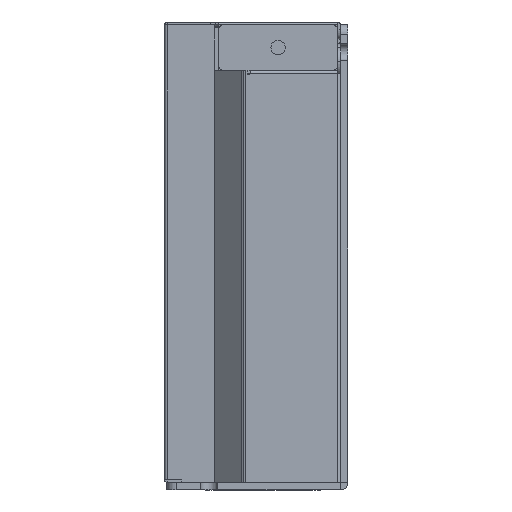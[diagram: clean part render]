
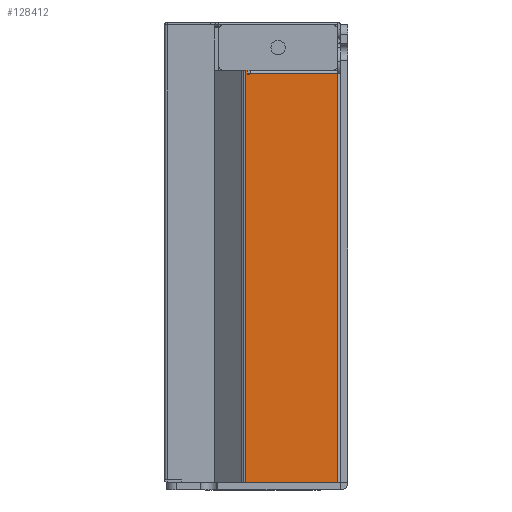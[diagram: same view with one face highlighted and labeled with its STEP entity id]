
A CAD part, left-side view. The second image highlights one B-rep face of the part: STEP entity #128412.
In plain terms, the highlighted planar face has unit normal (-1, 0, 0).
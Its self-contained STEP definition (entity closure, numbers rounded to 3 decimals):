
#60287=DIRECTION('',(0.,-1.,0.));
#60288=VECTOR('',#60287,85.5);
#60289=CARTESIAN_POINT('',(-87.45,47.65,-16.849));
#60290=LINE('',#60289,#60288);
#60309=DIRECTION('',(0.,0.,1.));
#60310=VECTOR('',#60309,19.051);
#60311=CARTESIAN_POINT('',(-87.45,47.65,-35.9));
#60312=LINE('',#60311,#60310);
#60316=DIRECTION('',(0.,0.,-1.));
#60317=VECTOR('',#60316,0.3);
#60318=CARTESIAN_POINT('',(-87.45,-37.85,-16.849));
#60319=LINE('',#60318,#60317);
#60323=DIRECTION('',(0.,1.,0.));
#60324=VECTOR('',#60323,0.6);
#60325=CARTESIAN_POINT('',(-87.45,-37.85,-17.149));
#60326=LINE('',#60325,#60324);
#60330=CARTESIAN_POINT('',(-87.45,-37.25,-17.449));
#60331=DIRECTION('',(-1.,0.,0.));
#60332=DIRECTION('',(0.,0.,1.));
#60333=AXIS2_PLACEMENT_3D('',#60330,#60331,#60332);
#60346=DIRECTION('',(0.,0.,-1.));
#60347=VECTOR('',#60346,18.151);
#60348=CARTESIAN_POINT('',(-87.45,-37.25,-17.749));
#60349=LINE('',#60348,#60347);
#60744=DIRECTION('',(0.,-1.,0.));
#60745=VECTOR('',#60744,84.9);
#60746=CARTESIAN_POINT('',(-87.45,47.65,-35.9));
#60747=LINE('',#60746,#60745);
#109420=CARTESIAN_POINT('',(-87.45,47.65,-35.9));
#109421=CARTESIAN_POINT('',(-87.45,47.65,-16.849));
#109422=VERTEX_POINT('',#109420);
#109423=VERTEX_POINT('',#109421);
#109442=CARTESIAN_POINT('',(-87.45,-37.85,-16.849));
#109443=VERTEX_POINT('',#109442);
#109446=CARTESIAN_POINT('',(-87.45,-37.85,-17.149));
#109447=CARTESIAN_POINT('',(-87.45,-37.25,-17.149));
#109448=VERTEX_POINT('',#109446);
#109449=VERTEX_POINT('',#109447);
#109450=CARTESIAN_POINT('',(-87.45,-37.25,-17.749));
#109451=VERTEX_POINT('',#109450);
#109464=CARTESIAN_POINT('',(-87.45,-37.25,-35.9));
#109465=VERTEX_POINT('',#109464);
#128393=CARTESIAN_POINT('',(-87.45,25.102,-16.6));
#128394=DIRECTION('',(1.,0.,0.));
#128395=DIRECTION('',(0.,-1.,0.));
#128396=AXIS2_PLACEMENT_3D('',#128393,#128394,#128395);
#128397=PLANE('',#128396);
#128399=ORIENTED_EDGE('',*,*,#128398,.T.);
#128401=ORIENTED_EDGE('',*,*,#128400,.F.);
#128403=ORIENTED_EDGE('',*,*,#128402,.T.);
#128404=ORIENTED_EDGE('',*,*,#128386,.T.);
#128405=ORIENTED_EDGE('',*,*,#128290,.T.);
#128407=ORIENTED_EDGE('',*,*,#128406,.T.);
#128409=ORIENTED_EDGE('',*,*,#128408,.T.);
#128410=EDGE_LOOP('',(#128399,#128401,#128403,#128404,#128405,#128407,#128409));
#128411=FACE_OUTER_BOUND('',#128410,.F.);
#60334=CIRCLE('',#60333,0.3);
#128290=EDGE_CURVE('',#109443,#109448,#60319,.T.);
#128386=EDGE_CURVE('',#109423,#109443,#60290,.T.);
#128398=EDGE_CURVE('',#109451,#109465,#60349,.T.);
#128400=EDGE_CURVE('',#109422,#109465,#60747,.T.);
#128402=EDGE_CURVE('',#109422,#109423,#60312,.T.);
#128406=EDGE_CURVE('',#109448,#109449,#60326,.T.);
#128408=EDGE_CURVE('',#109449,#109451,#60334,.T.);
#128412=ADVANCED_FACE('',(#128411),#128397,.F.);
